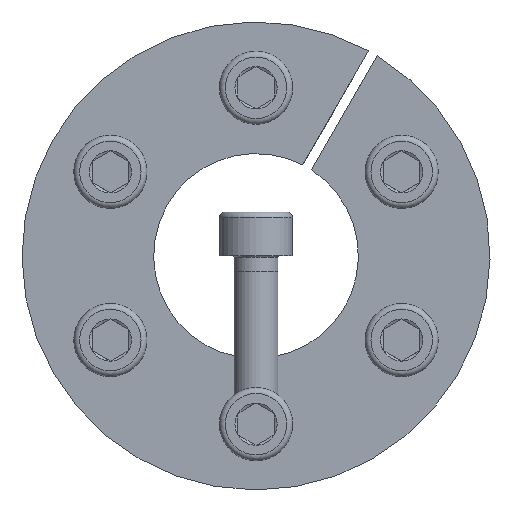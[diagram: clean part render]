
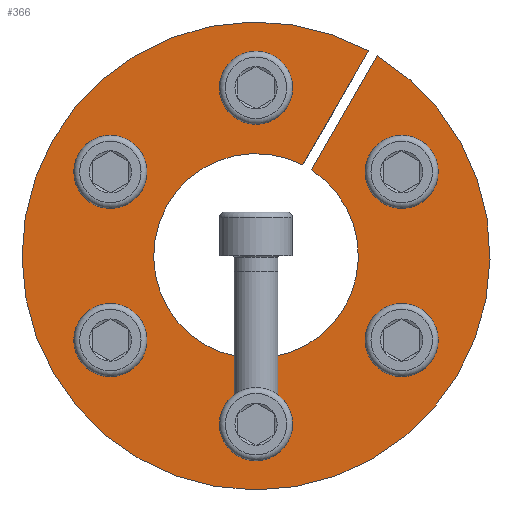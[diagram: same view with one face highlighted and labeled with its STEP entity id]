
A CAD part, front view. The second image highlights one B-rep face of the part: STEP entity #366.
In plain terms, the highlighted planar face has unit normal (0, -1, 0).
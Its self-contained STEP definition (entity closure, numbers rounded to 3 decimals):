
#366 = ADVANCED_FACE( '', ( #569, #570, #571, #572, #573, #574, #575 ), #576, .F. );
#569 = FACE_BOUND( '', #713, .T. );
#570 = FACE_BOUND( '', #714, .T. );
#571 = FACE_BOUND( '', #715, .T. );
#572 = FACE_BOUND( '', #716, .T. );
#573 = FACE_BOUND( '', #717, .T. );
#574 = FACE_BOUND( '', #718, .T. );
#575 = FACE_OUTER_BOUND( '', #719, .T. );
#576 = PLANE( '', #720 );
#713 = EDGE_LOOP( '', ( #896 ) );
#714 = EDGE_LOOP( '', ( #897 ) );
#715 = EDGE_LOOP( '', ( #898 ) );
#716 = EDGE_LOOP( '', ( #899 ) );
#717 = EDGE_LOOP( '', ( #900 ) );
#718 = EDGE_LOOP( '', ( #901 ) );
#719 = EDGE_LOOP( '', ( #902, #903, #904, #905 ) );
#720 = AXIS2_PLACEMENT_3D( '', #906, #907, #908 );
#896 = ORIENTED_EDGE( '', *, *, #1210, .T. );
#897 = ORIENTED_EDGE( '', *, *, #1211, .T. );
#898 = ORIENTED_EDGE( '', *, *, #1212, .T. );
#899 = ORIENTED_EDGE( '', *, *, #1213, .T. );
#900 = ORIENTED_EDGE( '', *, *, #1214, .T. );
#901 = ORIENTED_EDGE( '', *, *, #1215, .T. );
#902 = ORIENTED_EDGE( '', *, *, #1216, .T. );
#903 = ORIENTED_EDGE( '', *, *, #1217, .T. );
#904 = ORIENTED_EDGE( '', *, *, #1202, .T. );
#905 = ORIENTED_EDGE( '', *, *, #1218, .F. );
#906 = CARTESIAN_POINT( '', ( 0., 0., 32. ) );
#907 = DIRECTION( '', ( 0., 1., 0. ) );
#908 = DIRECTION( '', ( 0., 0., 1. ) );
#1202 = EDGE_CURVE( '', #1331, #1329, #1332, .T. );
#1210 = EDGE_CURVE( '', #1345, #1345, #1346, .T. );
#1211 = EDGE_CURVE( '', #1347, #1347, #1348, .T. );
#1212 = EDGE_CURVE( '', #1349, #1349, #1350, .T. );
#1213 = EDGE_CURVE( '', #1351, #1351, #1352, .T. );
#1214 = EDGE_CURVE( '', #1353, #1353, #1354, .T. );
#1215 = EDGE_CURVE( '', #1355, #1355, #1356, .T. );
#1216 = EDGE_CURVE( '', #1357, #1358, #1359, .T. );
#1217 = EDGE_CURVE( '', #1358, #1331, #1360, .T. );
#1218 = EDGE_CURVE( '', #1357, #1329, #1361, .T. );
#1329 = VERTEX_POINT( '', #1429 );
#1331 = VERTEX_POINT( '', #1432 );
#1332 = LINE( '', #1433, #1434 );
#1345 = VERTEX_POINT( '', #1458 );
#1346 = CIRCLE( '', #1459, 3. );
#1347 = VERTEX_POINT( '', #1460 );
#1348 = CIRCLE( '', #1461, 3. );
#1349 = VERTEX_POINT( '', #1462 );
#1350 = CIRCLE( '', #1463, 3. );
#1351 = VERTEX_POINT( '', #1464 );
#1352 = CIRCLE( '', #1465, 3. );
#1353 = VERTEX_POINT( '', #1466 );
#1354 = CIRCLE( '', #1467, 3. );
#1355 = VERTEX_POINT( '', #1468 );
#1356 = CIRCLE( '', #1469, 3. );
#1357 = VERTEX_POINT( '', #1470 );
#1358 = VERTEX_POINT( '', #1471 );
#1359 = LINE( '', #1472, #1473 );
#1360 = CIRCLE( '', #1474, 32. );
#1361 = CIRCLE( '', #1475, 14. );
#1429 = CARTESIAN_POINT( '', ( 7.587, 0., 11.766 ) );
#1432 = CARTESIAN_POINT( '', ( 16.592, 0., 27.363 ) );
#1433 = CARTESIAN_POINT( '', ( 16.595, 0., 27.369 ) );
#1434 = VECTOR( '', #1559, 1000. );
#1458 = CARTESIAN_POINT( '', ( -18.419, 0., 14.098 ) );
#1459 = AXIS2_PLACEMENT_3D( '', #1565, #1566, #1567 );
#1460 = CARTESIAN_POINT( '', ( -3., 0., -23. ) );
#1461 = AXIS2_PLACEMENT_3D( '', #1568, #1569, #1570 );
#1462 = CARTESIAN_POINT( '', ( 21.419, 0., 8.902 ) );
#1463 = AXIS2_PLACEMENT_3D( '', #1571, #1572, #1573 );
#1464 = CARTESIAN_POINT( '', ( 3., 0., 23. ) );
#1465 = AXIS2_PLACEMENT_3D( '', #1574, #1575, #1576 );
#1466 = CARTESIAN_POINT( '', ( 18.419, 0., -14.098 ) );
#1467 = AXIS2_PLACEMENT_3D( '', #1577, #1578, #1579 );
#1468 = CARTESIAN_POINT( '', ( -21.419, 0., -8.902 ) );
#1469 = AXIS2_PLACEMENT_3D( '', #1580, #1581, #1582 );
#1470 = CARTESIAN_POINT( '', ( 6.396, 0., 12.453 ) );
#1471 = CARTESIAN_POINT( '', ( 15.401, 0., 28.05 ) );
#1472 = CARTESIAN_POINT( '', ( 6.396, 0., 12.453 ) );
#1473 = VECTOR( '', #1583, 1000. );
#1474 = AXIS2_PLACEMENT_3D( '', #1584, #1585, #1586 );
#1475 = AXIS2_PLACEMENT_3D( '', #1587, #1588, #1589 );
#1559 = DIRECTION( '', ( -0.5, 0., -0.866 ) );
#1565 = CARTESIAN_POINT( '', ( -19.919, 0., 11.5 ) );
#1566 = DIRECTION( '', ( 0., 1., 0. ) );
#1567 = DIRECTION( '', ( 0.5, 0., 0.866 ) );
#1568 = CARTESIAN_POINT( '', ( 0., 0., -23. ) );
#1569 = DIRECTION( '', ( 0., 1., 0. ) );
#1570 = DIRECTION( '', ( -1., 0., 0. ) );
#1571 = CARTESIAN_POINT( '', ( 19.919, 0., 11.5 ) );
#1572 = DIRECTION( '', ( 0., 1., 0. ) );
#1573 = DIRECTION( '', ( 0.5, 0., -0.866 ) );
#1574 = CARTESIAN_POINT( '', ( 0., 0., 23. ) );
#1575 = DIRECTION( '', ( 0., 1., 0. ) );
#1576 = DIRECTION( '', ( 1., 0., 0. ) );
#1577 = CARTESIAN_POINT( '', ( 19.919, 0., -11.5 ) );
#1578 = DIRECTION( '', ( 0., 1., 0. ) );
#1579 = DIRECTION( '', ( -0.5, 0., -0.866 ) );
#1580 = CARTESIAN_POINT( '', ( -19.919, 0., -11.5 ) );
#1581 = DIRECTION( '', ( 0., 1., 0. ) );
#1582 = DIRECTION( '', ( -0.5, 0., 0.866 ) );
#1583 = DIRECTION( '', ( 0.5, 0., 0.866 ) );
#1584 = CARTESIAN_POINT( '', ( 0., 0., 0. ) );
#1585 = DIRECTION( '', ( 0., -1., 0. ) );
#1586 = DIRECTION( '', ( 0., 0., -1. ) );
#1587 = CARTESIAN_POINT( '', ( 0., 0., 0. ) );
#1588 = DIRECTION( '', ( 0., -1., 0. ) );
#1589 = DIRECTION( '', ( 0., 0., -1. ) );
